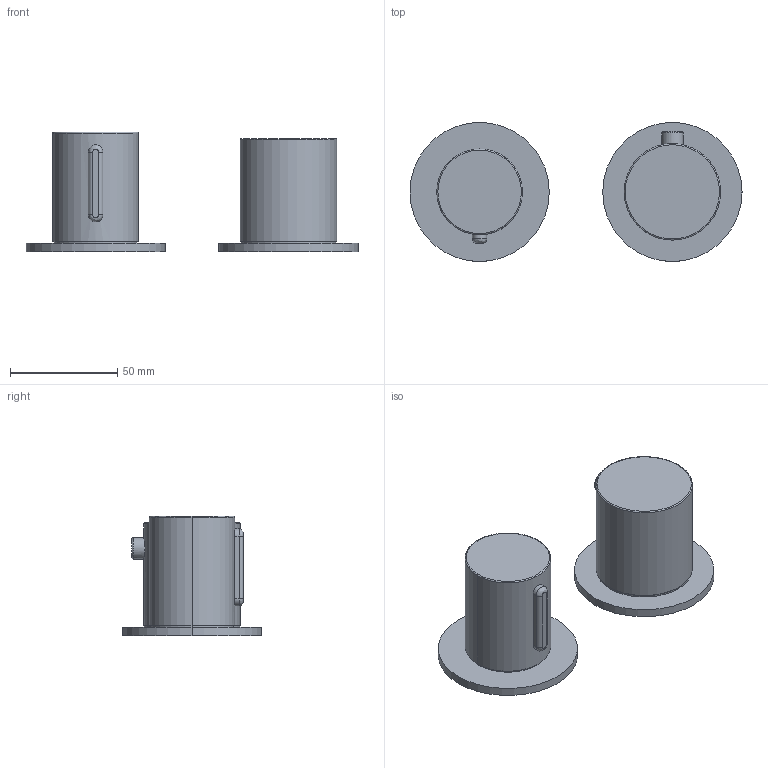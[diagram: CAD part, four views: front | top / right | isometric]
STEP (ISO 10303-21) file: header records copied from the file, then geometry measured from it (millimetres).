
FILE_DESCRIPTION(('STEP AP214'),'2;1');
FILE_NAME('DIS_3D_G423B+M623A.stp','2024-05-02T16:22:37',(''),(''),'2015.2.119','THINKDESIGN','');
FILE_SCHEMA(('AUTOMOTIVE_DESIGN'));
Length unit declared in the file: millimetre
Products named in the file (1): top
Bounding box: 155 x 65 x 56 mm (x, y, z)
Volume: 169970.1 mm3; surface area: 33613.4 mm2
Topology: 4 solids, 4 shells, 54 faces, 115 edges, 75 vertices
Faces by surface type: cylinder 24, plane 20, bspline 10
Full cylindrical faces by diameter (mm): 9.957 x1, 45 x1, 65 x1
Entity records: 3360 total; most frequent: CARTESIAN_POINT 1185, DIRECTION 252, ORIENTED_EDGE 230, EDGE_CURVE 115, STYLED_ITEM 112, PRESENTATION_STYLE_ASSIGNMENT 110, SURFACE_STYLE_USAGE 110, SURFACE_SIDE_STYLE 110
